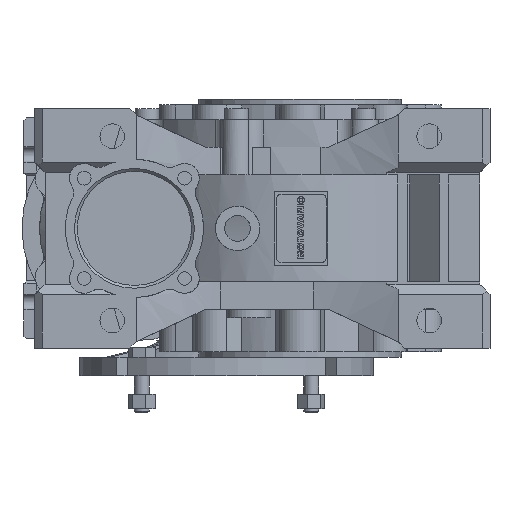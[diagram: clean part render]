
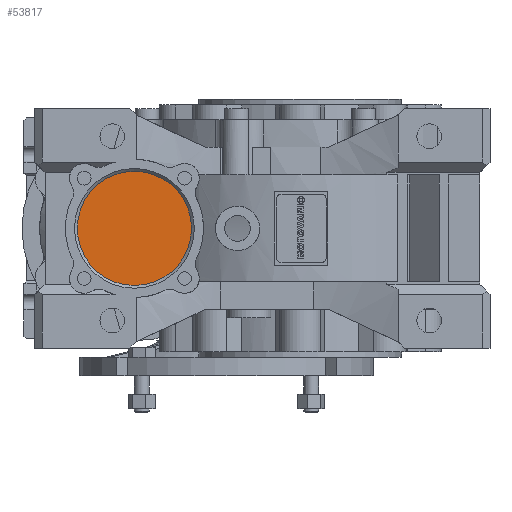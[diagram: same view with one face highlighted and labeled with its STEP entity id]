
A CAD part, left-side view. The second image highlights one B-rep face of the part: STEP entity #53817.
In plain terms, the highlighted planar face has unit normal (-1, 0, 0) as drawn and (1, 0, 0) by its records, which use the part's own axes.
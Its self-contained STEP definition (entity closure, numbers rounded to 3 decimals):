
#11720=ORIENTED_EDGE('',*,*,#21832,.T.);
#21832=EDGE_CURVE('',#27076,#27076,#30142,.T.);
#27076=VERTEX_POINT('',#75757);
#30142=CIRCLE('',#56725,31.);
#31885=EDGE_LOOP('',(#11720));
#34587=FACE_BOUND('',#31885,.T.);
#37045=PLANE('',#56724);
#53817=ADVANCED_FACE('',(#34587),#37045,.T.);
#56724=AXIS2_PLACEMENT_3D('',#75755,#62926,#62927);
#56725=AXIS2_PLACEMENT_3D('',#75756,#62928,#62929);
#62926=DIRECTION('',(1.,0.,0.));
#62927=DIRECTION('',(0.,0.,-1.));
#62928=DIRECTION('',(1.,0.,0.));
#62929=DIRECTION('',(0.,0.,-1.));
#75755=CARTESIAN_POINT('',(101.5,90.,0.));
#75756=CARTESIAN_POINT('',(101.5,90.,0.));
#75757=CARTESIAN_POINT('',(101.5,90.,-31.));
